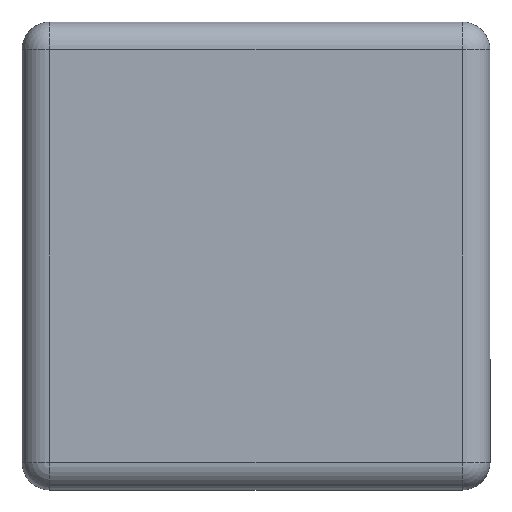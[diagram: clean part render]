
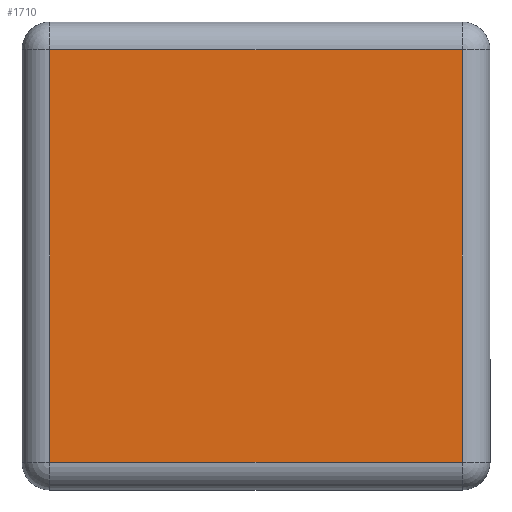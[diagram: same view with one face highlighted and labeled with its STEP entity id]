
A CAD part, front view. The second image highlights one B-rep face of the part: STEP entity #1710.
In plain terms, the highlighted planar face has unit normal (0, -1, 0).
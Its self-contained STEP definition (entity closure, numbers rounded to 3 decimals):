
#125 = CARTESIAN_POINT ( 'NONE',  ( -11.2, -9.8, -11.2 ) ) ;
#446 = LINE ( 'NONE', #1824, #1838 ) ;
#610 = EDGE_CURVE ( 'NONE', #1158, #1182, #2516, .T. ) ;
#661 = LINE ( 'NONE', #2148, #3785 ) ;
#715 = VERTEX_POINT ( 'NONE', #3354 ) ;
#1055 = CARTESIAN_POINT ( 'NONE',  ( 11.2, -9.8, 11.2 ) ) ;
#1126 = EDGE_CURVE ( 'NONE', #715, #1158, #1661, .T. ) ;
#1158 = VERTEX_POINT ( 'NONE', #1055 ) ;
#1182 = VERTEX_POINT ( 'NONE', #2572 ) ;
#1221 = ORIENTED_EDGE ( 'NONE', *, *, #1599, .T. ) ;
#1599 = EDGE_CURVE ( 'NONE', #1182, #1701, #446, .T. ) ;
#1661 = LINE ( 'NONE', #2963, #3528 ) ;
#1701 = VERTEX_POINT ( 'NONE', #125 ) ;
#1710 = ADVANCED_FACE ( 'NONE', ( #3615 ), #3146, .F. ) ;
#1757 = ORIENTED_EDGE ( 'NONE', *, *, #3792, .T. ) ;
#1824 = CARTESIAN_POINT ( 'NONE',  ( -11.2, -9.8, -11.2 ) ) ;
#1826 = DIRECTION ( 'NONE',  ( 1., 0., 0. ) ) ;
#1833 = DIRECTION ( 'NONE',  ( -1., 0., 0. ) ) ;
#1838 = VECTOR ( 'NONE', #3682, 1000. ) ;
#2072 = ORIENTED_EDGE ( 'NONE', *, *, #1126, .T. ) ;
#2135 = CARTESIAN_POINT ( 'NONE',  ( -11.2, -9.8, 11.2 ) ) ;
#2148 = CARTESIAN_POINT ( 'NONE',  ( 11.2, -9.8, -11.2 ) ) ;
#2309 = EDGE_LOOP ( 'NONE', ( #3565, #1221, #1757, #2072 ) ) ;
#2480 = DIRECTION ( 'NONE',  ( 0., 1., 0. ) ) ;
#2516 = LINE ( 'NONE', #2135, #3243 ) ;
#2572 = CARTESIAN_POINT ( 'NONE',  ( -11.2, -9.8, 11.2 ) ) ;
#2684 = DIRECTION ( 'NONE',  ( 0., 0., 1. ) ) ;
#2774 = DIRECTION ( 'NONE',  ( 0., 0., 1. ) ) ;
#2963 = CARTESIAN_POINT ( 'NONE',  ( 11.2, -9.8, 11.2 ) ) ;
#3146 = PLANE ( 'NONE',  #3419 ) ;
#3243 = VECTOR ( 'NONE', #1833, 1000. ) ;
#3354 = CARTESIAN_POINT ( 'NONE',  ( 11.2, -9.8, -11.2 ) ) ;
#3419 = AXIS2_PLACEMENT_3D ( 'NONE', #3431, #2480, #2774 ) ;
#3431 = CARTESIAN_POINT ( 'NONE',  ( -11.2, -9.8, -11.2 ) ) ;
#3528 = VECTOR ( 'NONE', #2684, 1000. ) ;
#3565 = ORIENTED_EDGE ( 'NONE', *, *, #610, .T. ) ;
#3615 = FACE_OUTER_BOUND ( 'NONE', #2309, .T. ) ;
#3682 = DIRECTION ( 'NONE',  ( 0., 0., -1. ) ) ;
#3785 = VECTOR ( 'NONE', #1826, 1000. ) ;
#3792 = EDGE_CURVE ( 'NONE', #1701, #715, #661, .T. ) ;
